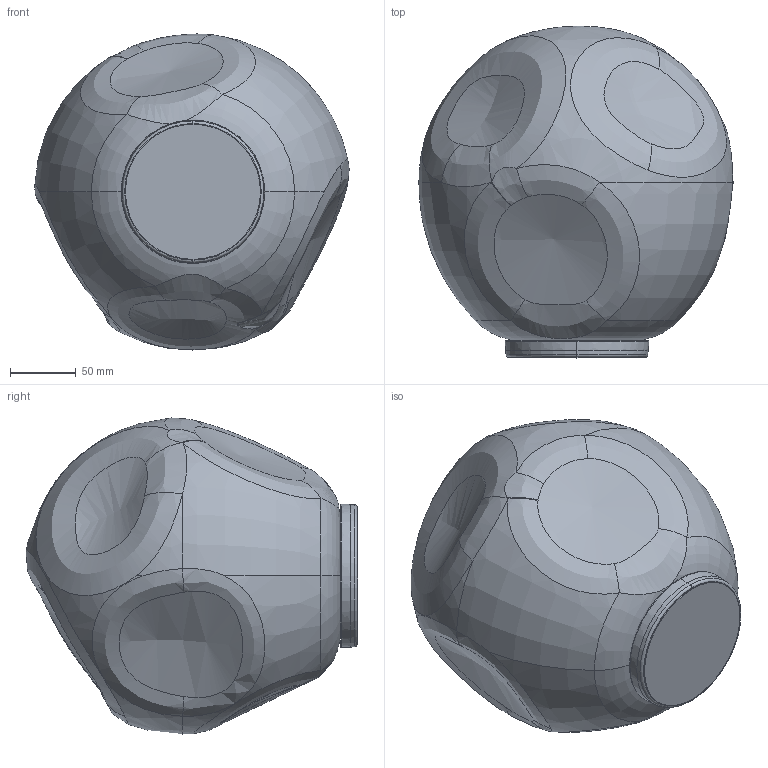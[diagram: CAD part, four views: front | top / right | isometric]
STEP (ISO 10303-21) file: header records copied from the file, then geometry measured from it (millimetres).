
FILE_DESCRIPTION (( 'STEP AP203' ), '1' );
FILE_NAME ('325_MEDIA_T_ME_3D.STEP', '2023-12-13T11:03:28', ( '' ), ( '' ), 'SwSTEP 2.0', 'SolidWorks 2023', '' );
FILE_SCHEMA (( 'CONFIG_CONTROL_DESIGN' ));
Products named in the file (1): 325_MEDIA_T_ME_3D
Bounding box: 238.29 x 251.68 x 239.71 mm (x, y, z)
Volume: 633527.8 mm3; surface area: 366879.7 mm2
Topology: 2 solids, 2 shells, 101 faces, 302 edges, 206 vertices
Faces by surface type: bspline 60, torus 16, cylinder 10, sphere 6, plane 5, cone 4
Entity records: 39658 total; most frequent: CARTESIAN_POINT 37367, ORIENTED_EDGE 596, EDGE_CURVE 298, DIRECTION 290, VERTEX_POINT 204, B_SPLINE_CURVE_WITH_KNOTS 188, AXIS2_PLACEMENT_3D 138, EDGE_LOOP 104
